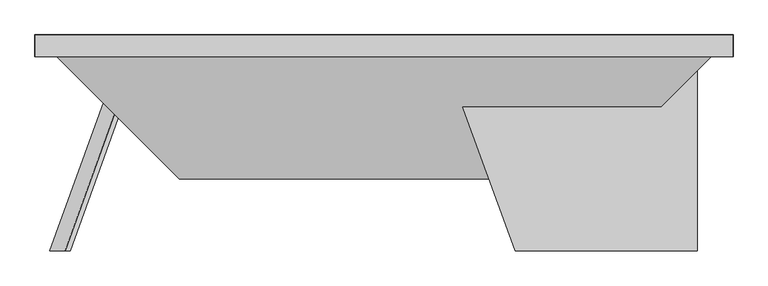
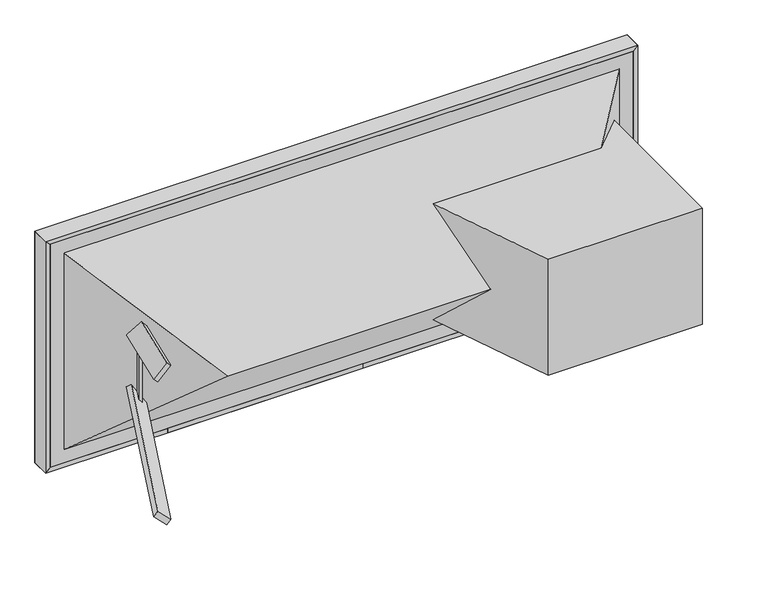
"""IFC4 building model written with IfcOpenShell, lengths in millimetres: proxy geometry, DATUM^OFFICE 3_DESK-SOLID ASSEMBLY."""

from ifc_helpers import new_model, si_unit, frame, origin, origin_with_axes, place, context, project, spatial, polyline, outline, extrude, faceted_brep, source, transform, mapped, element, save


def generic_models_dd6469f5(model_context):
    return source(origin(), model_context, "Body", "SolidModel", [
        faceted_brep([(294.8061415, 529.0964283, 381.0079196), (282.857532, 533.4, 396.0489388), (282.857532, 533.4, 619.9510612), (294.8061415, 529.0964283, 634.9920804), (257.0361019, 461.7083426, 370.2109562), (257.0361019, 461.7083426, 645.7890438), (268.9847114, 457.4047709, 355.169937), (268.9847114, 457.4047709, 660.830063)], [[[0, 1, 2, 3]], [[1, 4, 5, 2]], [[6, 0, 3, 7]], [[4, 6, 7, 5]], [[4, 1, 0, 6]], [[2, 5, 7, 3]]]),
        extrude(outline(polyline([(-187.4162767, -342.9), (162.0162766, 342.9), (187.4162766, 342.9), (-162.0162767, -342.9), (-187.4162767, -342.9)])), frame((238.9179531, 342.9, 284.779513), z_axis=(-0.7073333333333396, 0.0, 0.7068801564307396), x_axis=(0.7068801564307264, 0.0, 0.7073333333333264)), (0.0, 0.0, 1.0), 76.2),
        extrude(outline(polyline([(-187.4162766, -342.9), (162.0162766, 342.9), (187.4162766, 342.9), (-162.0162767, -342.9), (-187.4162766, -342.9)])), frame((185.0191531, 342.9, 677.3562191), z_axis=(0.7073333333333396, 0.0, 0.7068801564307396), x_axis=(0.7068801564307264, 0.0, -0.7073333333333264)), (0.0, 0.0, 1.0), 76.2),
        extrude(outline(polyline([(1316.0375, 733.425), (1316.0375, 685.8), (506.4125, 685.8), (506.4125, 733.425), (1316.0375, 733.425)])), origin_with_axes(), (0.0, 0.0, 1.0), 19.05),
        extrude(outline(polyline([(2438.4, 685.8), (19.05, 685.8), (19.05, 717.55), (2438.4, 717.55), (2438.4, 685.8)])), frame((0.0, 0.0, 19.05), z_axis=(0.0, 0.0, 1.0), x_axis=(1.0, 0.0, 0.0)), (0.0, 0.0, 1.0), 977.9),
        faceted_brep([(2457.45, 762.0, 1016.0), (0.0, 762.0, 1016.0), (0.0, 685.8, 1016.0), (2457.45, 685.8, 1016.0), (19.05, 742.95, 996.95), (19.05, 685.8, 996.95), (2438.4, 742.95, 996.95), (2438.4, 685.8, 996.95)], [[[0, 1, 2, 3]], [[1, 4, 5, 2]], [[4, 6, 7, 5]], [[6, 0, 3, 7]], [[3, 2, 5, 7]], [[4, 1, 0, 6]]]),
        faceted_brep([(2438.4, 742.95, 19.05), (2457.45, 762.0, 0.0), (2457.45, 685.8, 0.0), (2438.4, 685.8, 19.05), (2457.45, 762.0, 1016.0), (2457.45, 685.8, 1016.0), (2438.4, 742.95, 996.95), (2438.4, 685.8, 996.95)], [[[0, 1, 2, 3]], [[1, 4, 5, 2]], [[4, 6, 7, 5]], [[6, 0, 3, 7]], [[3, 2, 5, 7]], [[4, 1, 0, 6]]]),
        faceted_brep([(0.0, 762.0, 1016.0), (0.0, 762.0, 0.0), (0.0, 685.8, 0.0), (0.0, 685.8, 1016.0), (19.05, 742.95, 19.05), (19.05, 685.8, 19.05), (19.05, 742.95, 996.95), (19.05, 685.8, 996.95)], [[[0, 1, 2, 3]], [[1, 4, 5, 2]], [[4, 6, 7, 5]], [[6, 0, 3, 7]], [[3, 2, 5, 7]], [[4, 1, 0, 6]]]),
        extrude(outline(polyline([(2330.45, 685.8), (2330.45, 0.0), (1691.0607867, 0.0), (1441.45, 685.8), (2330.45, 685.8)])), frame((0.0, 0.0, 254.0), z_axis=(0.0, 0.0, 1.0), x_axis=(1.0, 0.0, 0.0)), (0.0, 0.0, 1.0), 508.0),
        faceted_brep([(0.0, 685.8, 0.0), (2457.45, 685.8, 0.0), (2438.4, 685.8, 19.05), (19.05, 685.8, 19.05), (0.0, 762.0, 0.0), (2457.45, 762.0, 0.0), (2438.4, 742.95, 19.05), (19.05, 742.95, 19.05)], [[[0, 1, 2, 3]], [[1, 0, 4, 5]], [[5, 6, 2, 1]], [[3, 2, 6, 7]], [[7, 4, 0, 3]], [[6, 5, 4, 7]]]),
        faceted_brep([(2457.45, 762.0, 0.0), (1949.45, 254.0, 508.0), (508.0, 254.0, 508.0), (0.0, 762.0, 0.0), (0.0, 762.0, 1016.0), (2457.45, 762.0, 1016.0)], [[[0, 1, 2, 3]], [[3, 2, 4]], [[1, 5, 4, 2]], [[1, 0, 5]], [[4, 5, 0, 3]]]),
    ])


if __name__ == "__main__":
    model = new_model("IFC4")
    model_context = context("Model", 3, world=origin())
    ifc_project = project(units=[si_unit("LENGTHUNIT", "METRE", prefix="MILLI")], contexts=[model_context])
    site = spatial("IfcSite", under=ifc_project)
    building = spatial("IfcBuilding", under=site)
    placement = place(None, origin())
    generic_models_shape = generic_models_dd6469f5(model_context)
    element("IfcBuildingElementProxy", 1, Name="DATUM^OFFICE 3_DESK-SOLID ASSEMBLY", ObjectType="DATUM^OFFICE 3_DESK-SOLID ASSEMBLY", at=placement, inside=building, context=model_context, shape_type="MappedRepresentation", body=[
        mapped(generic_models_shape, transform((0.0, 0.0, 0.0), x_axis=(1.0, 0.0, 0.0), y_axis=(0.0, 1.0, 0.0), z_axis=(0.0, 0.0, 1.0))),
    ])
    save(model, "model.ifc")
